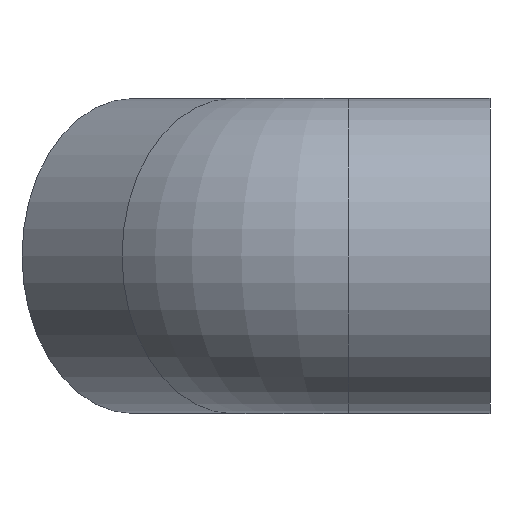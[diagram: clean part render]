
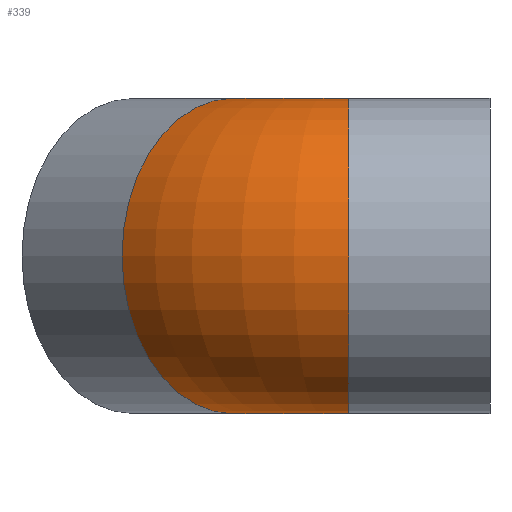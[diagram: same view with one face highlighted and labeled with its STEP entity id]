
A CAD part, left-side view. The second image highlights one B-rep face of the part: STEP entity #339.
In plain terms, the highlighted toroidal (fillet/blend) face has major radius 46 mm and minor radius 44.5 mm.
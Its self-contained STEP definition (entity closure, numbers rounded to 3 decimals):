
#16=TOROIDAL_SURFACE('',#369,46.,44.5);
#23=FACE_BOUND('',#102,.T.);
#71=FACE_OUTER_BOUND('',#101,.T.);
#101=EDGE_LOOP('',(#293));
#102=EDGE_LOOP('',(#294));
#122=CIRCLE('',#368,44.5);
#123=CIRCLE('',#370,44.5);
#174=VERTEX_POINT('',#10832);
#175=VERTEX_POINT('',#10835);
#218=EDGE_CURVE('',#174,#174,#122,.T.);
#219=EDGE_CURVE('',#175,#175,#123,.T.);
#293=ORIENTED_EDGE('',*,*,#218,.F.);
#294=ORIENTED_EDGE('',*,*,#219,.T.);
#339=ADVANCED_FACE('',(#71,#23),#16,.T.);
#368=AXIS2_PLACEMENT_3D('',#10833,#429,#430);
#369=AXIS2_PLACEMENT_3D('',#10834,#431,#432);
#370=AXIS2_PLACEMENT_3D('',#10836,#433,#434);
#429=DIRECTION('center_axis',(0.707,0.707,0.));
#430=DIRECTION('ref_axis',(0.707,-0.707,0.));
#431=DIRECTION('center_axis',(0.,0.,-1.));
#432=DIRECTION('ref_axis',(-1.,0.,0.));
#433=DIRECTION('center_axis',(0.,1.,0.));
#434=DIRECTION('ref_axis',(1.,0.,0.));
#10832=CARTESIAN_POINT('',(-17.993,103.939,0.));
#10833=CARTESIAN_POINT('Origin',(13.473,72.473,0.));
#10834=CARTESIAN_POINT('Origin',(46.,39.946,0.));
#10835=CARTESIAN_POINT('',(-44.5,39.946,0.));
#10836=CARTESIAN_POINT('Origin',(0.,39.946,0.));
